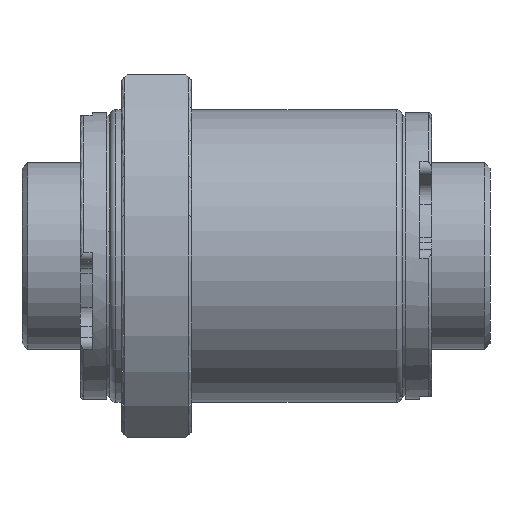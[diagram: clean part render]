
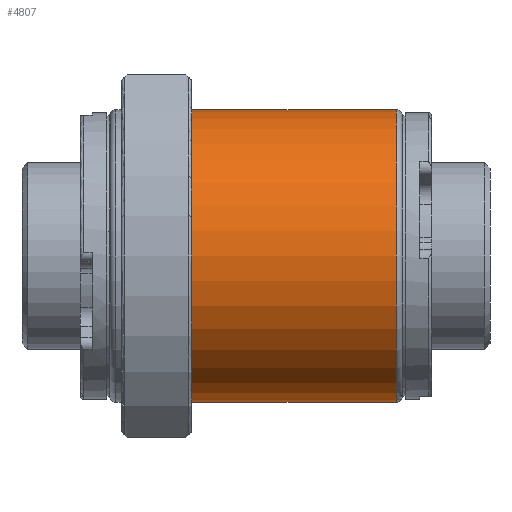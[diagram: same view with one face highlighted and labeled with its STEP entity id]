
A CAD part, front view. The second image highlights one B-rep face of the part: STEP entity #4807.
In plain terms, the highlighted cylindrical face has radius 25 mm (diameter 50 mm), a partial arc.
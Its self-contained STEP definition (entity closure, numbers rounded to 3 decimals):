
#21 = EDGE_LOOP ( 'NONE', ( #7467, #6011, #1762, #3839 ) ) ;
#65 = VECTOR ( 'NONE', #4801, 1000. ) ;
#404 = VERTEX_POINT ( 'NONE', #5184 ) ;
#599 = AXIS2_PLACEMENT_3D ( 'NONE', #4335, #4517, #3298 ) ;
#635 = CARTESIAN_POINT ( 'NONE',  ( 14., 0., -25. ) ) ;
#646 = CARTESIAN_POINT ( 'NONE',  ( 14., 0., 0. ) ) ;
#1238 = LINE ( 'NONE', #3831, #1510 ) ;
#1311 = CARTESIAN_POINT ( 'NONE',  ( 50., 0., -25. ) ) ;
#1510 = VECTOR ( 'NONE', #5558, 1000. ) ;
#1762 = ORIENTED_EDGE ( 'NONE', *, *, #2961, .T. ) ;
#2309 = EDGE_CURVE ( 'NONE', #6104, #3554, #6348, .T. ) ;
#2369 = VERTEX_POINT ( 'NONE', #3622 ) ;
#2860 = CARTESIAN_POINT ( 'NONE',  ( 50., 0., 0. ) ) ;
#2961 = EDGE_CURVE ( 'NONE', #2369, #404, #1238, .T. ) ;
#2992 = EDGE_CURVE ( 'NONE', #6104, #2369, #7069, .T. ) ;
#3298 = DIRECTION ( 'NONE',  ( 0., 0., -1. ) ) ;
#3554 = VERTEX_POINT ( 'NONE', #635 ) ;
#3622 = CARTESIAN_POINT ( 'NONE',  ( 49., 0., 25. ) ) ;
#3692 = FACE_OUTER_BOUND ( 'NONE', #21, .T. ) ;
#3831 = CARTESIAN_POINT ( 'NONE',  ( 50., 0., 25. ) ) ;
#3839 = ORIENTED_EDGE ( 'NONE', *, *, #4914, .F. ) ;
#4147 = CIRCLE ( 'NONE', #4493, 25. ) ;
#4335 = CARTESIAN_POINT ( 'NONE',  ( 49., 0., 0. ) ) ;
#4466 = CARTESIAN_POINT ( 'NONE',  ( 49., 0., -25. ) ) ;
#4493 = AXIS2_PLACEMENT_3D ( 'NONE', #646, #5899, #7522 ) ;
#4517 = DIRECTION ( 'NONE',  ( -1., 0., 0. ) ) ;
#4648 = DIRECTION ( 'NONE',  ( 0., 0., 1. ) ) ;
#4801 = DIRECTION ( 'NONE',  ( -1., 0., 0. ) ) ;
#4807 = ADVANCED_FACE ( 'NONE', ( #3692 ), #5605, .T. ) ;
#4914 = EDGE_CURVE ( 'NONE', #3554, #404, #4147, .T. ) ;
#5184 = CARTESIAN_POINT ( 'NONE',  ( 14., 0., 25. ) ) ;
#5558 = DIRECTION ( 'NONE',  ( -1., 0., 0. ) ) ;
#5605 = CYLINDRICAL_SURFACE ( 'NONE', #6817, 25. ) ;
#5899 = DIRECTION ( 'NONE',  ( -1., 0., 0. ) ) ;
#6011 = ORIENTED_EDGE ( 'NONE', *, *, #2992, .T. ) ;
#6104 = VERTEX_POINT ( 'NONE', #4466 ) ;
#6348 = LINE ( 'NONE', #1311, #65 ) ;
#6817 = AXIS2_PLACEMENT_3D ( 'NONE', #2860, #6927, #4648 ) ;
#6927 = DIRECTION ( 'NONE',  ( -1., 0., 0. ) ) ;
#7069 = CIRCLE ( 'NONE', #599, 25. ) ;
#7467 = ORIENTED_EDGE ( 'NONE', *, *, #2309, .F. ) ;
#7522 = DIRECTION ( 'NONE',  ( 0., 0., 1. ) ) ;
